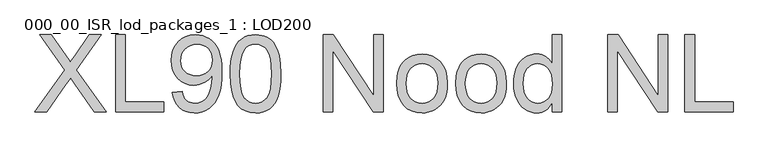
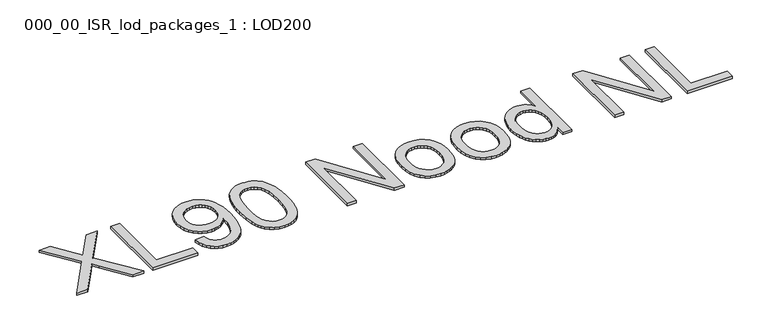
"""IFC4 building model written with IfcOpenShell, lengths in millimetres: proxy geometry, 000_00_ISR_lod_packages_1 : LOD200."""

from ifc_helpers import new_model, si_unit, origin, origin_with_axes, place, context, project, spatial, polyline, outline, extrude, source, transform, mapped, element, save


def proxy_000_00_isr_lod_packages_1_lod200_6910cb7c(model_context):
    return source(origin(), model_context, "Body", "SweptSolid", [
        extrude(outline(polyline([(500.0, 500.0), (808.1627819, 935.6043884), (549.9617936, 1299.3886983), (669.7920331, 1299.3886983), (815.1886591, 1094.6624423), (849.878928, 1042.7978069), (864.1746365, 1014.8406705), (921.5526339, 1096.0285851), (1065.3879539, 1299.3886983), (1186.9746626, 1299.3886983), (928.7736744, 934.4334088), (1236.9364563, 500.0), (1117.1062168, 500.0), (911.7944711, 789.6222725), (869.0537179, 849.7325555), (822.0193731, 783.7673749), (621.5867088, 500.0), (500.0, 500.0)])), origin_with_axes(), (0.0, 0.0, 1.0), 25.0),
        extrude(outline(polyline([(1336.8600436, 500.0), (1336.8600436, 1299.3886983), (1436.7836309, 1299.3886983), (1436.7836309, 599.9235873), (1836.47798, 599.9235873), (1836.47798, 500.0), (1336.8600436, 500.0)])), origin_with_axes(), (0.0, 0.0, 1.0), 25.0),
        extrude(outline(polyline([(1923.9111189, 699.8471746), (2023.8347062, 712.337623), (2031.0313513, 681.7152883), (2040.9114912, 655.6183016), (2053.4751258, 634.0466629), (2068.7222552, 617.0003722), (2086.4821115, 604.0647076), (2106.5839269, 594.8249472), (2129.0277014, 589.281091), (2153.813435, 587.4331389), (2196.1882571, 592.1902433), (2234.7086048, 606.4615564), (2266.7153788, 628.6857722), (2289.5494798, 657.3015847), (2306.8458234, 694.9193024), (2322.2393253, 744.1492338), (2333.070886, 800.6489965), (2336.6814063, 860.0762081), (2336.0959165, 879.5925338), (2320.1230237, 857.3683179), (2301.4788339, 837.3396887), (2280.163347, 819.5066462), (2256.176563, 803.8691903), (2230.3357281, 791.1469855), (2203.4580884, 782.0596964), (2175.5436438, 776.6073229), (2146.5923945, 774.7898651), (2099.1250312, 779.2298291), (2055.4755492, 792.5497214), (2015.6439483, 814.7495418), (1979.6302286, 845.8292904), (1949.788547, 884.1666726), (1928.47306, 928.1393938), (1915.6837679, 977.747454), (1911.4206705, 1032.9908533), (1915.8911289, 1090.0761058), (1929.3025039, 1141.3064606), (1951.6547956, 1186.6819178), (1982.948004, 1226.2024772), (2020.9743447, 1258.2214489), (2063.5260335, 1281.0921431), (2110.6030703, 1294.8145595), (2162.205455, 1299.3886983), (2200.304982, 1296.7783898), (2236.7334236, 1288.9474641), (2271.4907798, 1275.8959213), (2304.5770506, 1257.6237615), (2334.8883439, 1234.521311), (2361.3207674, 1206.9788964), (2383.8743212, 1174.9965178), (2402.5490053, 1138.574175), (2417.1923484, 1095.6138632), (2427.6518792, 1044.0175773), (2433.9275976, 983.7853173), (2436.0195038, 914.9170832), (2433.9336965, 842.5908001), (2427.6762746, 778.0344542), (2417.2472381, 721.2480454), (2402.6465869, 672.2315738), (2383.9292109, 629.7896644), (2361.1499995, 592.7269422), (2334.3089529, 561.0434073), (2303.4060711, 534.7390596), (2269.0634368, 514.0761499), (2231.903133, 499.3169286), (2191.9251597, 490.4613958), (2149.1295168, 487.5095516), (2104.2541656, 490.9919959), (2063.6968013, 501.439329), (2027.4574242, 518.8515508), (1995.536034, 543.2286613), (1968.7376794, 573.9119845), (1947.8674086, 610.2428445), (1932.9252218, 652.2212412), (1923.9111189, 699.8471746)]), holes=[polyline([(2336.0959165, 1035.3328124), (2333.400224, 1071.1452699), (2325.3131466, 1103.0544624), (2311.8346842, 1131.0603897), (2292.9648368, 1155.1630518), (2269.63063, 1174.5452027), (2242.7590891, 1188.3895962), (2212.3502142, 1196.6962323), (2178.4040053, 1199.465111), (2143.3722008, 1196.4827725), (2111.6581716, 1187.535757), (2083.2619178, 1172.6240644), (2058.1834393, 1151.7476949), (2037.6912974, 1126.1264186), (2023.0540532, 1096.980006), (2014.2717066, 1064.3084571), (2011.3442578, 1028.1117719), (2014.1131365, 995.647584), (2022.4197726, 966.3669966), (2036.2641661, 940.27001), (2055.646317, 917.3566239), (2079.7611769, 898.7002363), (2107.8036973, 885.3742452), (2139.7738782, 877.3786506), (2175.6717197, 874.7134523), (2209.148317, 877.3786506), (2239.5145, 885.3742452), (2266.7702685, 898.7002363), (2290.9156226, 917.3566239), (2310.6820012, 940.721325), (2324.800843, 968.1722568), (2333.2721481, 999.7094192), (2336.0959165, 1035.3328124)])]), origin_with_axes(), (0.0, 0.0, 1.0), 25.0),
        extrude(outline(polyline([(2523.4526427, 893.2539617), (2525.2883971, 960.469407), (2530.7956602, 1021.2078717), (2539.9744321, 1075.4693558), (2552.8247128, 1123.2538594), (2569.2916125, 1164.9517089), (2589.3202417, 1200.9532309), (2612.9106003, 1231.2584253), (2640.0626884, 1255.8672922), (2670.8679887, 1274.9079074), (2705.4179839, 1288.5083468), (2743.7126741, 1296.6686105), (2785.7520593, 1299.3886983), (2817.3441115, 1297.7786015), (2847.3260667, 1292.9483109), (2875.6979251, 1284.8978266), (2902.4596867, 1273.6271485), (2926.9648731, 1259.3253411), (2948.567006, 1242.1814688), (2967.2660855, 1222.1955316), (2983.0621116, 1199.3675294), (3009.1164063, 1145.5512615), (3029.9012931, 1081.098596), (3037.8419981, 1043.1942323), (3043.5139303, 999.2520054), (3048.051476, 893.2539617), (3046.2340181, 826.465436), (3040.7816447, 766.0319139), (3031.6943555, 711.9533953), (3018.9721508, 664.2298803), (3002.6333269, 622.5137342), (2982.6961805, 586.4573226), (2959.1607115, 556.0606454), (2932.02692, 531.3237027), (2901.1850266, 512.1550116), (2866.5252521, 498.4630894), (2828.0475963, 490.247936), (2785.7520593, 487.5095516), (2730.716021, 492.266656), (2681.9252069, 506.5379691), (2639.379617, 530.323491), (2603.0792513, 563.6232216), (2584.4167649, 591.8700535), (2568.24261, 623.8188885), (2554.5567867, 659.4697265), (2543.3592948, 698.8225675), (2528.4293057, 788.6342586), (2523.4526427, 893.2539617)]), holes=[polyline([(2623.37623, 893.449125), (2626.3036788, 806.5831793), (2635.0860254, 736.2695173), (2649.7232696, 682.508139), (2659.2374783, 661.8345563), (2670.2154115, 645.2990444), (2695.0011451, 619.9827107), (2722.5191642, 601.8996153), (2752.769469, 591.049758), (2785.7520593, 587.4331389), (2818.7346497, 591.0619557), (2848.9849544, 601.9484061), (2876.5029736, 620.0924901), (2901.2887071, 645.4942077), (2912.2666403, 662.069362), (2921.7808491, 682.7642908), (2936.4180933, 736.5134714), (2945.2004398, 806.7417494), (2948.1278887, 893.449125), (2945.2980215, 978.0158035), (2936.8084198, 1047.0913986), (2922.6590837, 1100.6759102), (2902.8500132, 1138.7693383), (2878.4790015, 1165.3237389), (2850.6438421, 1184.2911679), (2819.3445348, 1195.6716253), (2784.5810798, 1199.465111), (2751.7692573, 1196.1229403), (2722.0312561, 1186.096428), (2695.3670762, 1169.3855742), (2671.7767176, 1145.9903788), (2650.6015042, 1104.5181868), (2635.4763519, 1048.6039138), (2626.4012604, 978.2475599), (2623.37623, 893.449125)])]), origin_with_axes(), (0.0, 0.0, 1.0), 25.0),
        extrude(outline(polyline([(3485.2171704, 500.0), (3485.2171704, 1299.3886983), (3592.1666349, 1299.3886983), (4009.8160037, 666.0839312), (4009.8160037, 1299.3886983), (4109.739591, 1299.3886983), (4109.739591, 500.0), (4002.7901264, 500.0), (3585.1407577, 1133.4999304), (3585.1407577, 500.0), (3485.2171704, 500.0)])), origin_with_axes(), (0.0, 0.0, 1.0), 25.0),
        extrude(outline(polyline([(4247.1345235, 793.5255377), (4252.5381061, 869.5538238), (4259.2925845, 903.6250591), (4268.7488541, 935.0676894), (4280.9069151, 963.8817146), (4295.7667674, 990.0671346), (4313.3284111, 1013.6239495), (4333.5918461, 1034.5521594), (4371.6730765, 1062.9850063), (4413.7063628, 1083.2941827), (4459.6917051, 1095.4796885), (4509.6291034, 1099.5415238), (4564.7566245, 1094.595355), (4614.6025399, 1079.7568486), (4659.1668498, 1055.0260047), (4698.449554, 1020.4028233), (4730.5112177, 977.0582838), (4753.4124061, 926.1633658), (4767.1531191, 867.7180694), (4771.7333568, 801.7223944), (4769.708538, 748.2354645), (4763.6340816, 700.7742001), (4753.5099877, 659.3386012), (4739.3362562, 623.9286678), (4721.2897538, 593.3429262), (4699.5473473, 566.3799026), (4674.1090366, 543.0395969), (4644.9748217, 523.3220091), (4613.2790891, 507.654059), (4580.1562252, 496.462666), (4545.6062299, 489.7478302), (4509.6291034, 487.5095516), (4453.6965339, 492.4374238), (4403.3871057, 507.2210405), (4358.7008188, 531.8604016), (4319.6376732, 566.3555072), (4287.9175452, 610.1208674), (4265.2603109, 662.5709926), (4251.6659703, 723.7058827), (4247.1345235, 793.5255377)]), holes=[polyline([(4347.0581108, 793.7207009), (4349.9489665, 745.253126), (4358.6215337, 703.286927), (4373.0758124, 667.822104), (4393.3118025, 638.858657), (4417.9267683, 616.3599928), (4445.5179736, 600.2895184), (4476.0854187, 590.6472338), (4509.6291034, 587.4331389), (4543.0020202, 590.6655303), (4573.4474882, 600.3627046), (4600.9655074, 616.5246618), (4625.5560777, 639.1514018), (4645.7920678, 668.4014949), (4660.2463465, 704.4335111), (4668.9189137, 747.2474505), (4671.8097695, 796.843313), (4668.9006172, 843.7739774), (4660.1731603, 884.642383), (4645.6273989, 919.44853), (4625.2633328, 948.1924184), (4600.5812797, 970.6910825), (4573.0815571, 986.7615569), (4542.764165, 996.4038416), (4509.6291034, 999.6179365), (4476.0854187, 996.4160393), (4445.5179736, 986.8103478), (4417.9267683, 970.8008619), (4393.3118025, 948.3875817), (4373.0758124, 919.5095186), (4358.6215337, 884.1056841), (4349.9489665, 842.1760782), (4347.0581108, 793.7207009)])]), origin_with_axes(), (0.0, 0.0, 1.0), 25.0),
        extrude(outline(polyline([(4859.1664956, 793.5255377), (4864.5700783, 869.5538238), (4871.3245566, 903.6250591), (4880.7808263, 935.0676894), (4892.9388873, 963.8817146), (4907.7987396, 990.0671346), (4925.3603833, 1013.6239495), (4945.6238182, 1034.5521594), (4983.7050487, 1062.9850063), (5025.738335, 1083.2941827), (5071.7236773, 1095.4796885), (5121.6610755, 1099.5415238), (5176.7885966, 1094.595355), (5226.6345121, 1079.7568486), (5271.1988219, 1055.0260047), (5310.4815261, 1020.4028233), (5342.5431899, 977.0582838), (5365.4443782, 926.1633658), (5379.1850913, 867.7180694), (5383.7653289, 801.7223944), (5381.7405101, 748.2354645), (5375.6660538, 700.7742001), (5365.5419599, 659.3386012), (5351.3682284, 623.9286678), (5333.321726, 593.3429262), (5311.5793195, 566.3799026), (5286.1410088, 543.0395969), (5257.0067939, 523.3220091), (5225.3110613, 507.654059), (5192.1881973, 496.462666), (5157.6382021, 489.7478302), (5121.6610755, 487.5095516), (5065.728506, 492.4374238), (5015.4190778, 507.2210405), (4970.732791, 531.8604016), (4931.6696454, 566.3555072), (4899.9495174, 610.1208674), (4877.2922831, 662.5709926), (4863.6979425, 723.7058827), (4859.1664956, 793.5255377)]), holes=[polyline([(4959.0900829, 793.7207009), (4961.9809387, 745.253126), (4970.6535059, 703.286927), (4985.1077846, 667.822104), (5005.3437747, 638.858657), (5029.9587404, 616.3599928), (5057.5499458, 600.2895184), (5088.1173908, 590.6472338), (5121.6610755, 587.4331389), (5155.0339924, 590.6655303), (5185.4794604, 600.3627046), (5212.9974796, 616.5246618), (5237.5880499, 639.1514018), (5257.82404, 668.4014949), (5272.2783187, 704.4335111), (5280.9508859, 747.2474505), (5283.8417416, 796.843313), (5280.9325893, 843.7739774), (5272.2051325, 884.642383), (5257.659371, 919.44853), (5237.295305, 948.1924184), (5212.6132519, 970.6910825), (5185.1135293, 986.7615569), (5154.7961372, 996.4038416), (5121.6610755, 999.6179365), (5088.1173908, 996.4160393), (5057.5499458, 986.8103478), (5029.9587404, 970.8008619), (5005.3437747, 948.3875817), (4985.1077846, 919.5095186), (4970.6535059, 884.1056841), (4961.9809387, 842.1760782), (4959.0900829, 793.7207009)])]), origin_with_axes(), (0.0, 0.0, 1.0), 25.0),
        extrude(outline(polyline([(5858.4023686, 500.0), (5858.4023686, 594.2638529), (5828.5057972, 547.5588461), (5811.1881076, 529.2104505), (5792.2908155, 514.1981269), (5771.8139207, 502.5218752), (5749.7574233, 494.1816954), (5726.1213233, 489.1775875), (5700.9056206, 487.5095516), (5667.9230303, 489.9246969), (5636.3065828, 497.1701328), (5606.056278, 509.2458593), (5577.1721161, 526.1518764), (5550.556727, 547.3819794), (5527.1127408, 572.4299635), (5506.8401575, 601.2958289), (5489.7389772, 633.9795755), (5476.1629332, 669.8591205), (5466.4657588, 708.3123808), (5460.6474543, 749.3393566), (5458.7080194, 792.9400479), (5460.494983, 835.7417896), (5465.8558737, 876.5187125), (5474.7906915, 915.2708166), (5487.2994365, 951.9981019), (5503.3760097, 985.6271705), (5523.0143124, 1015.0846245), (5546.2143445, 1040.3704639), (5572.976106, 1061.4846888), (5602.354275, 1078.1345541), (5633.4035293, 1090.027315), (5666.123869, 1097.1629716), (5700.5152941, 1099.5415238), (5725.6669588, 1097.8399441), (5749.4036899, 1092.7352052), (5771.7254873, 1084.227307), (5792.6323512, 1072.3162495), (5829.2742526, 1041.0169422), (5858.4023686, 1001.569569), (5858.4023686, 1299.3886983), (5958.3259559, 1299.3886983), (5958.3259559, 500.0), (5858.4023686, 500.0)]), holes=[polyline([(5558.6316067, 793.3303744), (5561.4492762, 744.8749972), (5569.9022848, 702.9453913), (5583.9906323, 667.5415568), (5603.7143189, 638.6634937), (5627.2680844, 616.2502135), (5652.8466687, 600.2407276), (5680.4500718, 590.6350361), (5710.0782937, 587.4331389), (5739.8467891, 590.4886636), (5767.2855232, 599.6552378), (5792.3944959, 614.9328615), (5815.1737073, 636.3215346), (5834.0862466, 663.9920251), (5847.5952032, 698.1151007), (5855.7005772, 738.6907615), (5858.4023686, 785.7190074), (5855.6517864, 837.2787002), (5847.40004, 881.4953755), (5833.6471293, 918.3690333), (5814.3930542, 947.8996735), (5791.1137371, 970.5264136), (5765.2850998, 986.6883707), (5736.9071426, 996.385545), (5705.9798653, 999.6179365), (5675.7661537, 996.5136209), (5648.1627506, 987.2006743), (5623.1696561, 971.6790965), (5600.7868701, 949.9488877), (5582.3439424, 921.5343373), (5569.1704225, 885.959735), (5561.2663107, 843.2250807), (5558.6316067, 793.3303744)])]), origin_with_axes(), (0.0, 0.0, 1.0), 25.0),
        extrude(outline(polyline([(6432.9629955, 500.0), (6432.9629955, 1299.3886983), (6539.91246, 1299.3886983), (6957.5618288, 666.0839312), (6957.5618288, 1299.3886983), (7057.4854161, 1299.3886983), (7057.4854161, 500.0), (6950.5359516, 500.0), (6532.8865828, 1133.4999304), (6532.8865828, 500.0), (6432.9629955, 500.0)])), origin_with_axes(), (0.0, 0.0, 1.0), 25.0),
        extrude(outline(polyline([(7232.3516938, 500.0), (7232.3516938, 1299.3886983), (7332.2752811, 1299.3886983), (7332.2752811, 599.9235873), (7731.9696303, 599.9235873), (7731.9696303, 500.0), (7232.3516938, 500.0)])), origin_with_axes(), (0.0, 0.0, 1.0), 25.0),
    ])


if __name__ == "__main__":
    model = new_model("IFC4")
    model_context = context("Model", 3, world=origin())
    ifc_project = project(units=[si_unit("LENGTHUNIT", "METRE", prefix="MILLI")], contexts=[model_context])
    site = spatial("IfcSite", under=ifc_project)
    building = spatial("IfcBuilding", under=site)
    placement = place(None, origin())
    proxy_000_00_isr_lod_packages_1_lod200_shape = proxy_000_00_isr_lod_packages_1_lod200_6910cb7c(model_context)
    element("IfcBuildingElementProxy", 1, Name="000_00_ISR_lod_packages_1 : LOD200", ObjectType="000_00_ISR_lod_packages_1 : LOD200", at=placement, inside=building, context=model_context, shape_type="MappedRepresentation", body=[
        mapped(proxy_000_00_isr_lod_packages_1_lod200_shape, transform((0.0, 0.0, 0.0), x_axis=(1.0, 0.0, 0.0), y_axis=(0.0, 1.0, 0.0), z_axis=(0.0, 0.0, 1.0))),
    ])
    save(model, "model.ifc")
